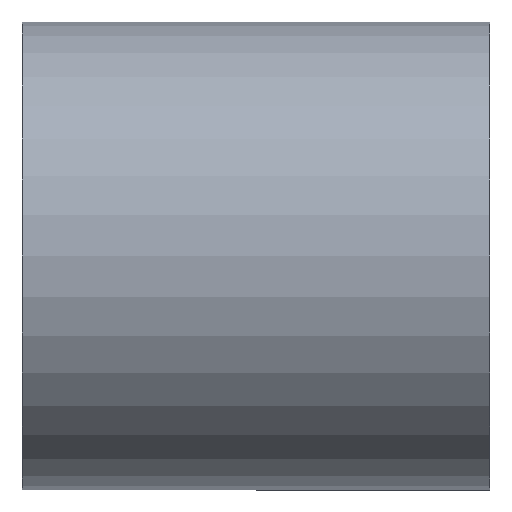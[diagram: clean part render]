
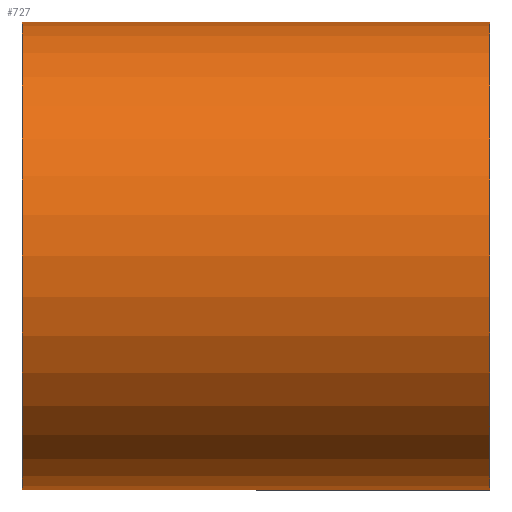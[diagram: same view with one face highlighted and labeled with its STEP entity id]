
A CAD part, front view. The second image highlights one B-rep face of the part: STEP entity #727.
In plain terms, the highlighted cylindrical face has radius 20 mm (diameter 40 mm), a partial arc.
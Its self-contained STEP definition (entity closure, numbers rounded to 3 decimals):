
#1 = CARTESIAN_POINT ( 'NONE',  ( 20., 0., 20. ) ) ;
#10 = CARTESIAN_POINT ( 'NONE',  ( -20., 0., -20. ) ) ;
#12 = CARTESIAN_POINT ( 'NONE',  ( -20., 0., 0. ) ) ;
#37 = DIRECTION ( 'NONE',  ( -1., 0., 0. ) ) ;
#52 = CARTESIAN_POINT ( 'NONE',  ( 0., 0., 0. ) ) ;
#101 = CARTESIAN_POINT ( 'NONE',  ( 20., 0., -20. ) ) ;
#102 = CARTESIAN_POINT ( 'NONE',  ( 0., 0., -20. ) ) ;
#122 = VECTOR ( 'NONE', #469, 1000. ) ;
#126 = DIRECTION ( 'NONE',  ( -1., 0., 0. ) ) ;
#127 = EDGE_CURVE ( 'NONE', #582, #598, #249, .T. ) ;
#132 = EDGE_CURVE ( 'NONE', #553, #598, #463, .T. ) ;
#147 = CARTESIAN_POINT ( 'NONE',  ( 20., 0., 0. ) ) ;
#182 = ORIENTED_EDGE ( 'NONE', *, *, #222, .F. ) ;
#211 = EDGE_CURVE ( 'NONE', #675, #553, #583, .T. ) ;
#218 = FACE_OUTER_BOUND ( 'NONE', #512, .T. ) ;
#222 = EDGE_CURVE ( 'NONE', #675, #582, #364, .T. ) ;
#249 = CIRCLE ( 'NONE', #439, 20. ) ;
#250 = AXIS2_PLACEMENT_3D ( 'NONE', #147, #586, #380 ) ;
#255 = ORIENTED_EDGE ( 'NONE', *, *, #127, .F. ) ;
#292 = VECTOR ( 'NONE', #37, 1000. ) ;
#327 = DIRECTION ( 'NONE',  ( 0., 0., 1. ) ) ;
#355 = CARTESIAN_POINT ( 'NONE',  ( 0., 0., 20. ) ) ;
#364 = LINE ( 'NONE', #102, #292 ) ;
#380 = DIRECTION ( 'NONE',  ( 0., 0., 1. ) ) ;
#435 = CYLINDRICAL_SURFACE ( 'NONE', #547, 20. ) ;
#439 = AXIS2_PLACEMENT_3D ( 'NONE', #12, #126, #514 ) ;
#460 = CARTESIAN_POINT ( 'NONE',  ( -20., 0., 20. ) ) ;
#463 = LINE ( 'NONE', #355, #122 ) ;
#469 = DIRECTION ( 'NONE',  ( -1., 0., 0. ) ) ;
#512 = EDGE_LOOP ( 'NONE', ( #182, #534, #555, #255 ) ) ;
#514 = DIRECTION ( 'NONE',  ( 0., 0., 1. ) ) ;
#534 = ORIENTED_EDGE ( 'NONE', *, *, #211, .T. ) ;
#539 = DIRECTION ( 'NONE',  ( -1., 0., 0. ) ) ;
#547 = AXIS2_PLACEMENT_3D ( 'NONE', #52, #539, #327 ) ;
#553 = VERTEX_POINT ( 'NONE', #1 ) ;
#555 = ORIENTED_EDGE ( 'NONE', *, *, #132, .T. ) ;
#582 = VERTEX_POINT ( 'NONE', #10 ) ;
#583 = CIRCLE ( 'NONE', #250, 20. ) ;
#586 = DIRECTION ( 'NONE',  ( -1., 0., 0. ) ) ;
#598 = VERTEX_POINT ( 'NONE', #460 ) ;
#675 = VERTEX_POINT ( 'NONE', #101 ) ;
#727 = ADVANCED_FACE ( 'NONE', ( #218 ), #435, .T. ) ;
